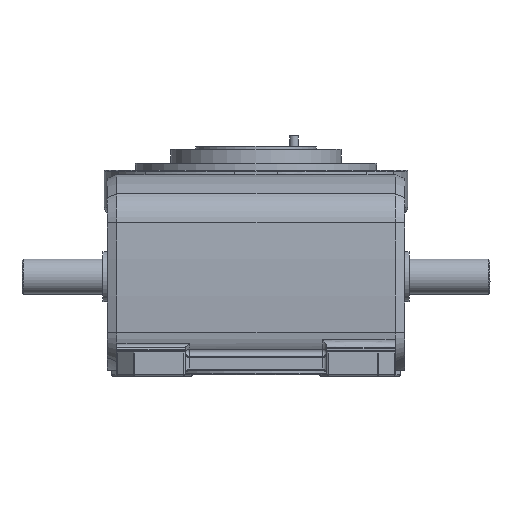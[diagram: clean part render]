
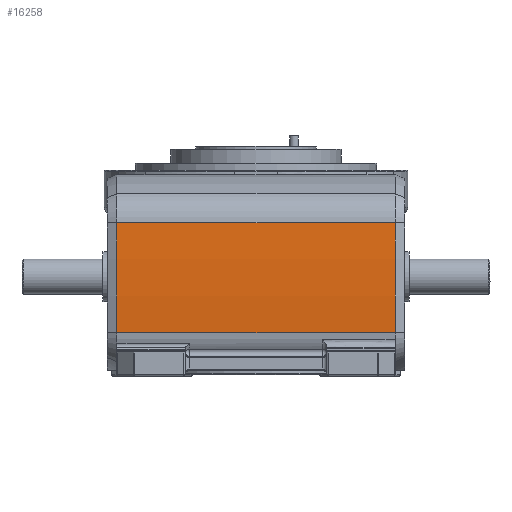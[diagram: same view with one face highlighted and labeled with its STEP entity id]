
A CAD part, front view. The second image highlights one B-rep face of the part: STEP entity #16258.
In plain terms, the highlighted cylindrical face has radius 600 mm (diameter 1200 mm), a partial arc.
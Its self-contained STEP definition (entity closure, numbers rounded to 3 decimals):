
#4332=DIRECTION('',(-1.,0.,0.));
#4333=VECTOR('',#4332,196.24);
#4334=CARTESIAN_POINT('',(98.12,-126.706,
-114.38));
#4335=LINE('',#4334,#4333);
#5249=CARTESIAN_POINT('',(98.12,472.,-75.));
#5250=DIRECTION('',(1.,0.,0.));
#5251=DIRECTION('',(0.,-0.998,0.064));
#5252=AXIS2_PLACEMENT_3D('',#5249,#5250,#5251);
#5254=CARTESIAN_POINT('',(-98.12,472.,-75.));
#5255=DIRECTION('',(-1.,0.,0.));
#5256=DIRECTION('',(0.,-0.998,-0.066));
#5257=AXIS2_PLACEMENT_3D('',#5254,#5255,#5256);
#5259=DIRECTION('',(-1.,0.,0.));
#5260=VECTOR('',#5259,196.24);
#5261=CARTESIAN_POINT('',(98.12,-126.787,
-36.864));
#5262=LINE('',#5261,#5260);
#6808=CARTESIAN_POINT('',(98.12,-126.706,
-114.38));
#6810=VERTEX_POINT('',#6808);
#6814=CARTESIAN_POINT('',(98.12,-126.787,
-36.864));
#6815=VERTEX_POINT('',#6814);
#6838=CARTESIAN_POINT('',(-98.12,-126.787,
-36.864));
#6839=VERTEX_POINT('',#6838);
#6840=CARTESIAN_POINT('',(-98.12,-126.706,
-114.38));
#6841=VERTEX_POINT('',#6840);
#16247=CARTESIAN_POINT('',(104.92,472.,-75.));
#16248=DIRECTION('',(1.,0.,0.));
#16249=DIRECTION('',(0.,0.,-1.));
#16250=AXIS2_PLACEMENT_3D('',#16247,#16248,#16249);
#16251=CYLINDRICAL_SURFACE('',#16250,600.);
#16252=ORIENTED_EDGE('',*,*,#14678,.T.);
#16253=ORIENTED_EDGE('',*,*,#14713,.T.);
#16254=ORIENTED_EDGE('',*,*,#16241,.T.);
#16255=ORIENTED_EDGE('',*,*,#14650,.F.);
#16256=EDGE_LOOP('',(#16252,#16253,#16254,#16255));
#16257=FACE_OUTER_BOUND('',#16256,.F.);
#5253=CIRCLE('',#5252,600.);
#5258=CIRCLE('',#5257,600.);
#14650=EDGE_CURVE('',#6815,#6839,#5262,.T.);
#14678=EDGE_CURVE('',#6815,#6810,#5253,.T.);
#14713=EDGE_CURVE('',#6810,#6841,#4335,.T.);
#16241=EDGE_CURVE('',#6841,#6839,#5258,.T.);
#16258=ADVANCED_FACE('',(#16257),#16251,.T.);
